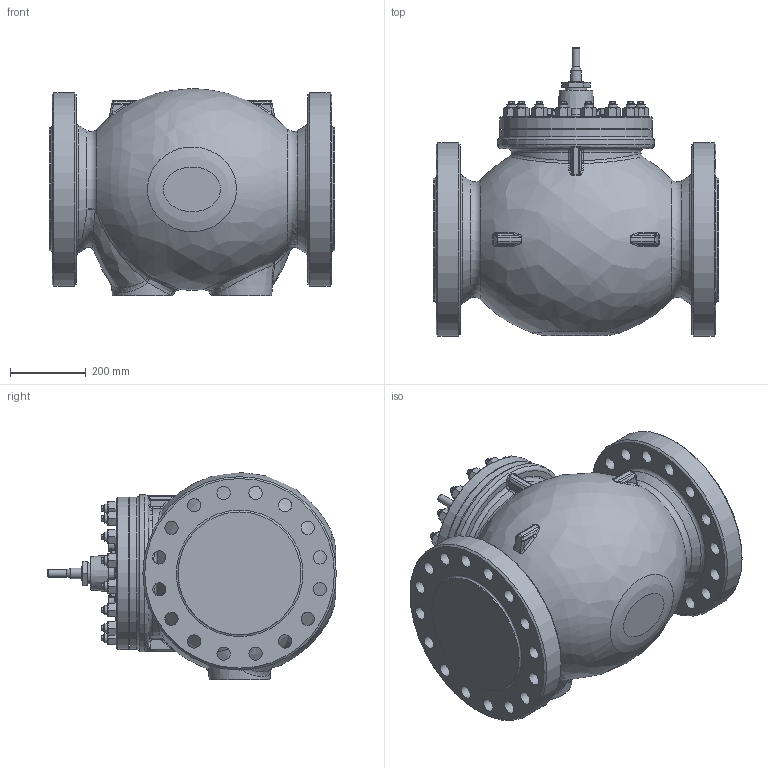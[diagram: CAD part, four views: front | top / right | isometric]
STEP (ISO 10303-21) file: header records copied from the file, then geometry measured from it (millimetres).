
FILE_DESCRIPTION(/* description */ (''),/* implementation_level */ '2;1');
FILE_NAME(/* name */ 'CV3xx_NPS_10_priruba_CL600.stp',/* time_stamp */ '2017-05-04T07:42:15+02:00',/* author */ (''),/* organization */ (''),/* preprocessor_version */ 'ST-DEVELOPER v15',/* originating_system */ 'SIEMENS PLM Software NX 8.5',/* authorisation */ '');
FILE_SCHEMA (('AP203_CONFIGURATION_CONTROLLED_3D_DESIGN_OF_MECHANICAL_PARTS_AND_ASSEMBLIES_MIM_LF { 1 0 10303 403 2 1 2}'));
Length unit declared in the file: millimetre
Products named in the file (1): adam0988A6FEes7b
Bounding box: 752 x 761 x 546 mm (x, y, z)
Volume: 135560082.8 mm3; surface area: 2482186 mm2
Topology: 1 solids, 17 shells, 1355 faces, 3267 edges, 2005 vertices
Faces by surface type: plane 458, cone 420, cylinder 216, bspline 139, torus 65, extrusion 41, sphere 16
Full cylindrical faces by diameter (mm): 14.376 x2, 17.97 x4, 18.5 x16, 20 x1, 21.797 x16, 24 x32, 26 x16, 28 x1, 32 x1, 34.93 x16, 35 x16, 36 x33, 39 x1, 56 x1, 298 x1, 323.8 x2, 402 x2, 414 x1, 510 x2
Entity records: 41143 total; most frequent: CARTESIAN_POINT 14662, ORIENTED_EDGE 5312, DIRECTION 4859, EDGE_CURVE 2656, AXIS2_PLACEMENT_3D 2134, EDGE_LOOP 1860, VERTEX_POINT 1768, ADVANCED_FACE 1354
